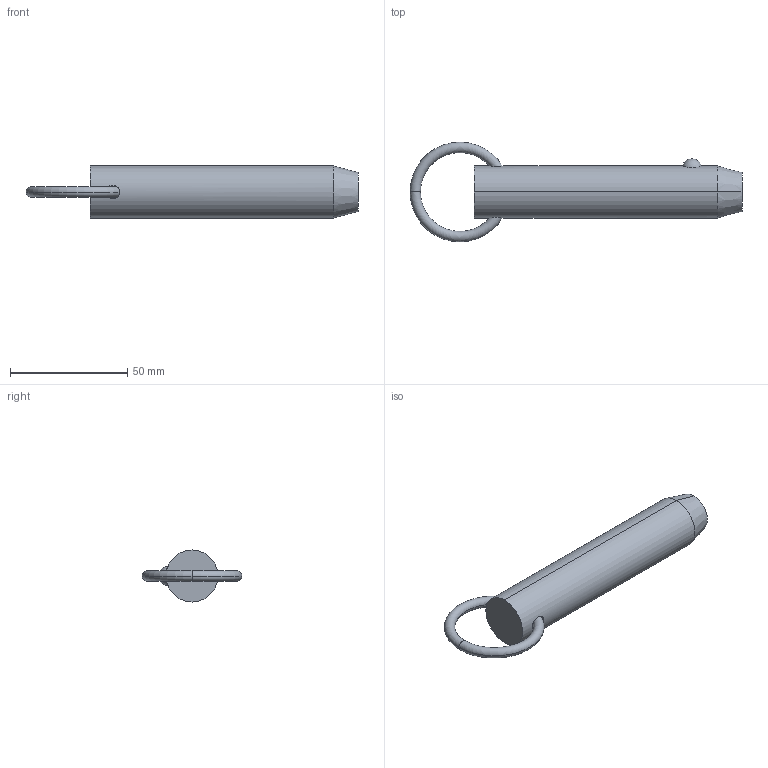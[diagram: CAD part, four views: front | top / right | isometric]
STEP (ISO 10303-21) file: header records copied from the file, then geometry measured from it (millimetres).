
FILE_DESCRIPTION (( 'STEP AP203' ), '1' );
FILE_NAME ('33010.W8830.step', '2024-11-01T10:45:45', ( '' ), ( '' ), 'SwSTEP 2.0', 'SolidWorks 2019', '' );
FILE_SCHEMA (( 'CONFIG_CONTROL_DESIGN' ));
Length unit declared in the file: millimetre
Products named in the file (3): Part2_33010.W8830; Part1_33010.W8830; 33010.W8830
Assembly tree (2 placements, depth 2):
  33010.W8830
    Part1_33010.W8830
    Part2_33010.W8830
Bounding box: 141.66 x 42.55 x 22.23 mm (x, y, z)
Volume: 44830.4 mm3; surface area: 10577.5 mm2
Topology: 2 solids, 2 shells, 16 faces, 31 edges, 18 vertices
Faces by surface type: torus 8, sphere 2, cone 2, cylinder 2, plane 2
Entity records: 903 total; most frequent: CARTESIAN_POINT 260, DIRECTION 88, ORIENTED_EDGE 62, AXIS2_PLACEMENT_3D 42, EDGE_CURVE 31, PERSON_AND_ORGANIZATION 26, CIRCLE 21, DATE_AND_TIME 19
